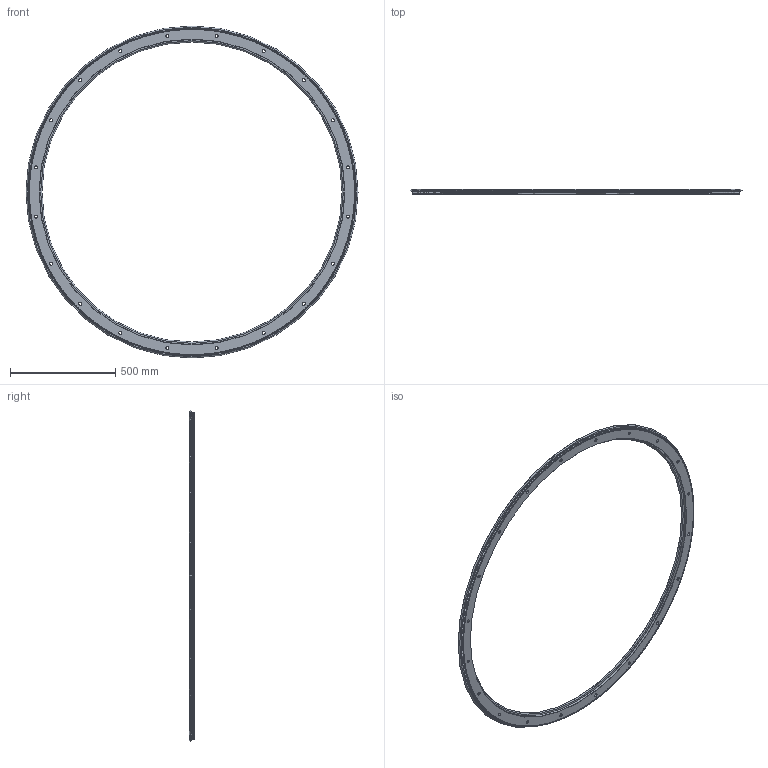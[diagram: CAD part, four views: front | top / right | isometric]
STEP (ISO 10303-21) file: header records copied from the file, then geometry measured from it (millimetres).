
FILE_DESCRIPTION( ( 'STEP AP203' ), '1' );
FILE_NAME( 'p:/temp/worker_37/temp/exporttempdir_1072_4_qXp1L/format_0/R76 1501 R360 P.stp', '2021-07-19T05:46:36', ( 'License CC BY-ND 4.0' ), ( 'CADENAS' ), ' ', 'PARTsolutions', ' ' );
FILE_SCHEMA( ( 'CONFIG_CONTROL_DESIGN' ) );
Length unit declared in the file: millimetre
Products named in the file (1): _R76 1501 R360 P
Bounding box: 1576.87 x 24 x 1576.87 mm (x, y, z)
Volume: 6245830.8 mm3; surface area: 1034301.3 mm2
Topology: 1 solids, 1 shells, 6285 faces, 16693 edges, 10433 vertices
Faces by surface type: plane 4151, cylinder 1075, cone 1057, torus 2
Full cylindrical faces by diameter (mm): 14 x20, 20 x20, 1450.5 x1, 1457.5 x1, 1543.9 x1
Entity records: 195160 total; most frequent: CARTESIAN_POINT 39533, ORIENTED_EDGE 33244, DIRECTION 32402, EDGE_CURVE 16622, AXIS2_PLACEMENT_3D 11558, VERTEX_POINT 10433, LINE 9286, VECTOR 9286
